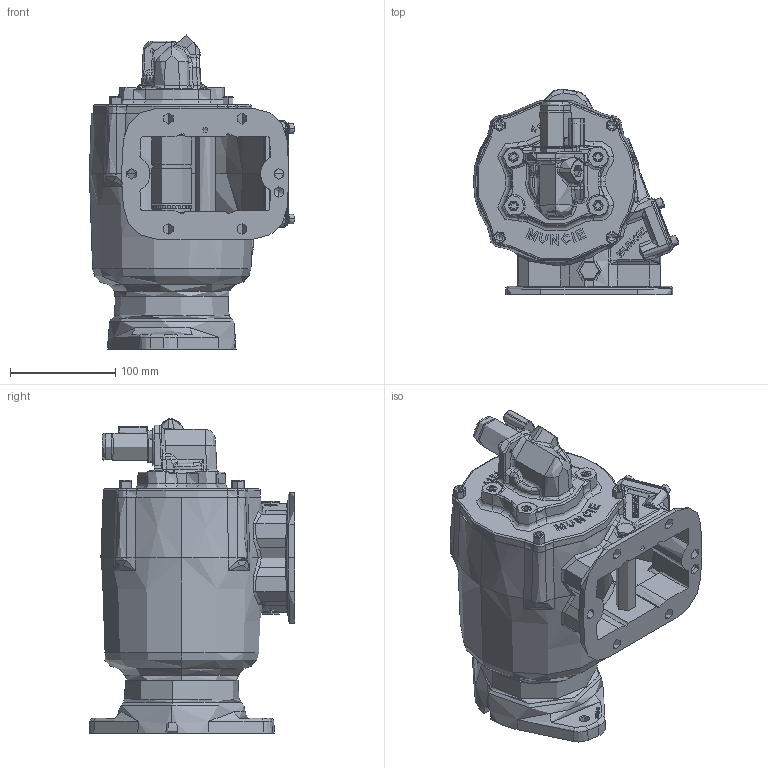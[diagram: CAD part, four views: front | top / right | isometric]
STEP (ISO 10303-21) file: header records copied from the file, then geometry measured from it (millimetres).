
FILE_DESCRIPTION (( 'STEP AP203' ), '1' );
FILE_NAME ('CS6S-XXXXX-S17X.STEP', '2023-05-26T19:14:35', ( '' ), ( '' ), 'SwSTEP 2.0', 'SolidWorks 2021', '' );
FILE_SCHEMA (( 'CONFIG_CONTROL_DESIGN' ));
Length unit declared in the file: inch
Products named in the file (13): 01t37073a; 19T35237; 14T38981; 19T40859; CS6S-XXXXX-S17X; 25T21684-1; 19T41118; 07T37071; 35T40860a; 15T41597; 14TA4819_Config1; 06T37089_06T37089; 16T41119
Assembly tree (23 placements, depth 3):
  CS6S-XXXXX-S17X
    01t37073a
    16T41119
    19T41118  x4
    19T35237  x4
    15T41597
    35T40860a
    25T21684-1  x5
    07T37071
    19T40859  x2
    06T37089_06T37089
    14TA4819_Config1
      14T38981
Bounding box: 194.82 x 195.2 x 297.84 mm (x, y, z)
Topology: 21 solids, 25 shells, 3113 faces, 7988 edges, 5011 vertices
Faces by surface type: bspline 1019, plane 792, cylinder 718, cone 418, torus 162, sphere 4
Entity records: 189491 total; most frequent: CARTESIAN_POINT 125268, ORIENTED_EDGE 14876, DIRECTION 9973, EDGE_CURVE 7440, VERTEX_POINT 4716, AXIS2_PLACEMENT_3D 3733, EDGE_LOOP 3174, B_SPLINE_CURVE_WITH_KNOTS 3017
